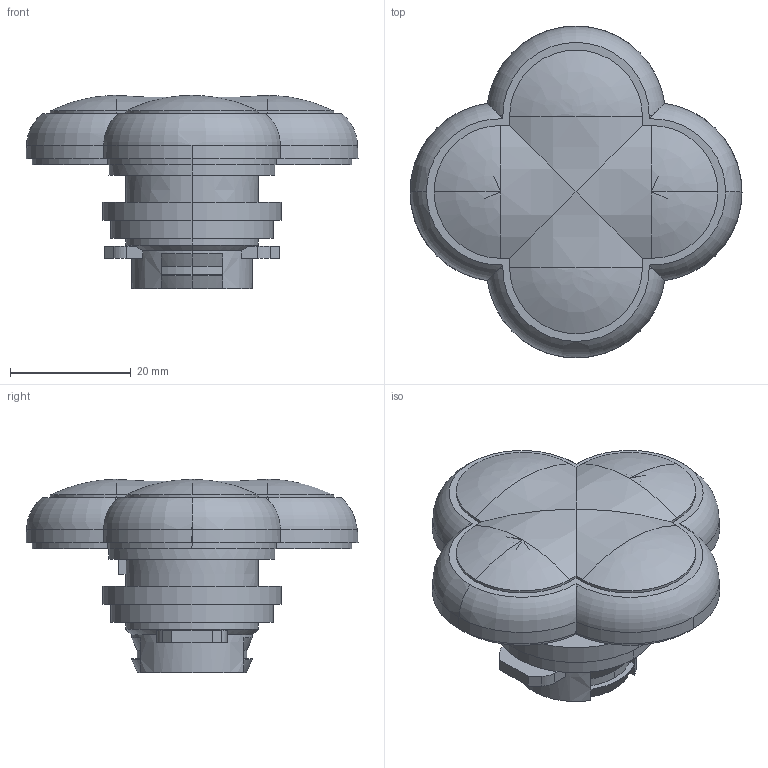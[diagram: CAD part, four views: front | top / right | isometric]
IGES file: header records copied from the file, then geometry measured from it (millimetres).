
Start section: Data from XPlus IGES,  Spatial Corp. Copyright (c) 1999-2004
Global section: file name: 279412.igs; native system:  By Spatial Corp.; preprocessor: XPlus ACIS/IGES 3.0; author: Noname; organization: Noname; date: 20120529.222323; units: millimetre
Bounding box: 55 x 55 x 32 mm (x, y, z)
Surface area: 7578.8 mm2 (no closed solid volume)
Topology: 0 solids, 0 shells, 116 faces, 600 edges, 594 vertices
Faces by surface type: revolution 70, extrusion 46
